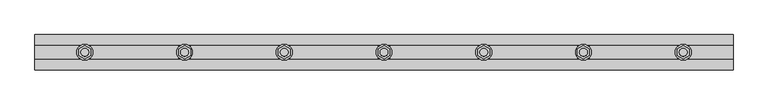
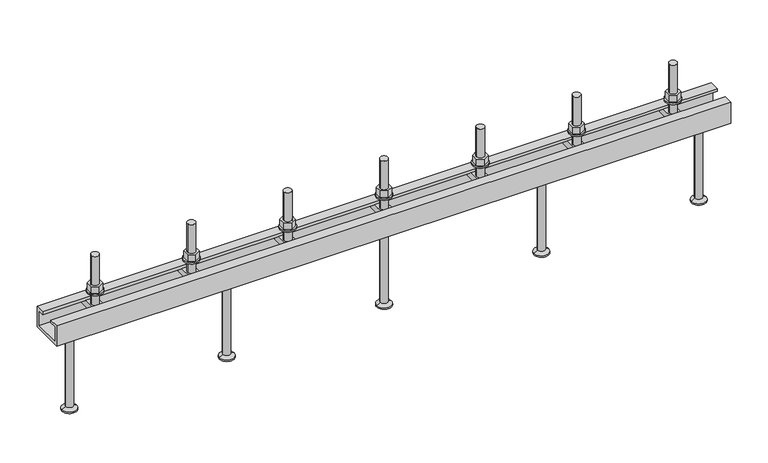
"""IFC4 building model written with IfcOpenShell, lengths in millimetres: fastener geometry, JTA-K JORDAHL® AnchorChannels : JTA-K L=1050 mm."""

from ifc_helpers import new_model, si_unit, point, frame, frame_2d, origin, place, context, project, spatial, polyline, circle_curve, trimmed, segment, composite_curve, outline, extrude, source, transform, mapped, element, save
from ifc_brep_helpers import plane_surface, cylinder_surface, revolved_surface, advanced_brep


def fastener_135f6368(model_context):
    return source(origin(), model_context, "Body", "SolidModel", [
        extrude(outline(polyline([(825.0, -10.3923048), (816.0, -5.1961524), (816.0, 5.1961524), (825.0, 10.3923048), (834.0, 5.1961524), (834.0, -5.1961524), (825.0, -10.3923048)]), holes=[composite_curve([segment(trimmed(circle_curve(frame_2d((825.0, 0.0)), 6.0), [point((819.0, 0.0))], [point((831.0, 0.0))], True, "CARTESIAN"), True, "CONTINUOUS"), segment(trimmed(circle_curve(frame_2d((825.0, 0.0)), 6.0), [point((831.0, 0.0))], [point((819.0, 0.0))], True, "CARTESIAN"), True, "CONTINUOUS")], self_intersect=False)]), frame((0.0, 0.0, 17.5), z_axis=(0.0, 0.0, 1.0), x_axis=(1.0, 0.0, 0.0)), (0.0, 0.0, 1.0), 10.8),
        extrude(outline(composite_curve([segment(trimmed(circle_curve(frame_2d((825.0, 0.0)), 12.0), [point((813.0, 0.0))], [point((837.0, 0.0))], False, "CARTESIAN"), True, "CONTINUOUS"), segment(trimmed(circle_curve(frame_2d((825.0, 0.0)), 12.0), [point((837.0, 0.0))], [point((813.0, 0.0))], False, "CARTESIAN"), True, "CONTINUOUS")], self_intersect=False), holes=[composite_curve([segment(trimmed(circle_curve(frame_2d((825.0, 0.0)), 6.5), [point((818.5, 0.0))], [point((831.5, 0.0))], True, "CARTESIAN"), True, "CONTINUOUS"), segment(trimmed(circle_curve(frame_2d((825.0, 0.0)), 6.5), [point((831.5, 0.0))], [point((818.5, 0.0))], True, "CARTESIAN"), True, "CONTINUOUS")], self_intersect=False)]), frame((0.0, 0.0, 15.0), z_axis=(0.0, 0.0, 1.0), x_axis=(1.0, 0.0, 0.0)), (0.0, 0.0, 1.0), 2.5),
        extrude(outline(polyline([(675.0, -10.3923048), (666.0, -5.1961524), (666.0, 5.1961524), (675.0, 10.3923048), (684.0, 5.1961524), (684.0, -5.1961524), (675.0, -10.3923048)]), holes=[composite_curve([segment(trimmed(circle_curve(frame_2d((675.0, 0.0)), 6.0), [point((669.0, 0.0))], [point((681.0, 0.0))], True, "CARTESIAN"), True, "CONTINUOUS"), segment(trimmed(circle_curve(frame_2d((675.0, 0.0)), 6.0), [point((681.0, 0.0))], [point((669.0, 0.0))], True, "CARTESIAN"), True, "CONTINUOUS")], self_intersect=False)]), frame((0.0, 0.0, 17.5), z_axis=(0.0, 0.0, 1.0), x_axis=(1.0, 0.0, 0.0)), (0.0, 0.0, 1.0), 10.8),
        extrude(outline(composite_curve([segment(trimmed(circle_curve(frame_2d((675.0, 0.0)), 12.0), [point((663.0, 0.0))], [point((687.0, 0.0))], False, "CARTESIAN"), True, "CONTINUOUS"), segment(trimmed(circle_curve(frame_2d((675.0, 0.0)), 12.0), [point((687.0, 0.0))], [point((663.0, 0.0))], False, "CARTESIAN"), True, "CONTINUOUS")], self_intersect=False), holes=[composite_curve([segment(trimmed(circle_curve(frame_2d((675.0, 0.0)), 6.5), [point((668.5, 0.0))], [point((681.5, 0.0))], True, "CARTESIAN"), True, "CONTINUOUS"), segment(trimmed(circle_curve(frame_2d((675.0, 0.0)), 6.5), [point((681.5, 0.0))], [point((668.5, 0.0))], True, "CARTESIAN"), True, "CONTINUOUS")], self_intersect=False)]), frame((0.0, 0.0, 15.0), z_axis=(0.0, 0.0, 1.0), x_axis=(1.0, 0.0, 0.0)), (0.0, 0.0, 1.0), 2.5),
        extrude(outline(polyline([(525.0, -10.3923048), (516.0, -5.1961524), (516.0, 5.1961524), (525.0, 10.3923048), (534.0, 5.1961524), (534.0, -5.1961524), (525.0, -10.3923048)]), holes=[composite_curve([segment(trimmed(circle_curve(frame_2d((525.0, 0.0)), 6.0), [point((519.0, 0.0))], [point((531.0, 0.0))], True, "CARTESIAN"), True, "CONTINUOUS"), segment(trimmed(circle_curve(frame_2d((525.0, 0.0)), 6.0), [point((531.0, 0.0))], [point((519.0, 0.0))], True, "CARTESIAN"), True, "CONTINUOUS")], self_intersect=False)]), frame((0.0, 0.0, 17.5), z_axis=(0.0, 0.0, 1.0), x_axis=(1.0, 0.0, 0.0)), (0.0, 0.0, 1.0), 10.8),
        extrude(outline(composite_curve([segment(trimmed(circle_curve(frame_2d((525.0, 0.0)), 12.0), [point((513.0, 0.0))], [point((537.0, 0.0))], False, "CARTESIAN"), True, "CONTINUOUS"), segment(trimmed(circle_curve(frame_2d((525.0, 0.0)), 12.0), [point((537.0, 0.0))], [point((513.0, 0.0))], False, "CARTESIAN"), True, "CONTINUOUS")], self_intersect=False), holes=[composite_curve([segment(trimmed(circle_curve(frame_2d((525.0, 0.0)), 6.5), [point((518.5, 0.0))], [point((531.5, 0.0))], True, "CARTESIAN"), True, "CONTINUOUS"), segment(trimmed(circle_curve(frame_2d((525.0, 0.0)), 6.5), [point((531.5, 0.0))], [point((518.5, 0.0))], True, "CARTESIAN"), True, "CONTINUOUS")], self_intersect=False)]), frame((0.0, 0.0, 15.0), z_axis=(0.0, 0.0, 1.0), x_axis=(1.0, 0.0, 0.0)), (0.0, 0.0, 1.0), 2.5),
        extrude(outline(polyline([(375.0, -10.3923048), (366.0, -5.1961524), (366.0, 5.1961524), (375.0, 10.3923048), (384.0, 5.1961524), (384.0, -5.1961524), (375.0, -10.3923048)]), holes=[composite_curve([segment(trimmed(circle_curve(frame_2d((375.0, 0.0)), 6.0), [point((369.0, 0.0))], [point((381.0, 0.0))], True, "CARTESIAN"), True, "CONTINUOUS"), segment(trimmed(circle_curve(frame_2d((375.0, 0.0)), 6.0), [point((381.0, 0.0))], [point((369.0, 0.0))], True, "CARTESIAN"), True, "CONTINUOUS")], self_intersect=False)]), frame((0.0, 0.0, 17.5), z_axis=(0.0, 0.0, 1.0), x_axis=(1.0, 0.0, 0.0)), (0.0, 0.0, 1.0), 10.8),
        extrude(outline(composite_curve([segment(trimmed(circle_curve(frame_2d((375.0, 0.0)), 12.0), [point((363.0, 0.0))], [point((387.0, 0.0))], False, "CARTESIAN"), True, "CONTINUOUS"), segment(trimmed(circle_curve(frame_2d((375.0, 0.0)), 12.0), [point((387.0, 0.0))], [point((363.0, 0.0))], False, "CARTESIAN"), True, "CONTINUOUS")], self_intersect=False), holes=[composite_curve([segment(trimmed(circle_curve(frame_2d((375.0, 0.0)), 6.5), [point((368.5, 0.0))], [point((381.5, 0.0))], True, "CARTESIAN"), True, "CONTINUOUS"), segment(trimmed(circle_curve(frame_2d((375.0, 0.0)), 6.5), [point((381.5, 0.0))], [point((368.5, 0.0))], True, "CARTESIAN"), True, "CONTINUOUS")], self_intersect=False)]), frame((0.0, 0.0, 15.0), z_axis=(0.0, 0.0, 1.0), x_axis=(1.0, 0.0, 0.0)), (0.0, 0.0, 1.0), 2.5),
        extrude(outline(polyline([(225.0, -10.3923048), (216.0, -5.1961524), (216.0, 5.1961524), (225.0, 10.3923048), (234.0, 5.1961524), (234.0, -5.1961524), (225.0, -10.3923048)]), holes=[composite_curve([segment(trimmed(circle_curve(frame_2d((225.0, 0.0)), 6.0), [point((219.0, 0.0))], [point((231.0, 0.0))], True, "CARTESIAN"), True, "CONTINUOUS"), segment(trimmed(circle_curve(frame_2d((225.0, 0.0)), 6.0), [point((231.0, 0.0))], [point((219.0, 0.0))], True, "CARTESIAN"), True, "CONTINUOUS")], self_intersect=False)]), frame((0.0, 0.0, 17.5), z_axis=(0.0, 0.0, 1.0), x_axis=(1.0, 0.0, 0.0)), (0.0, 0.0, 1.0), 10.8),
        extrude(outline(composite_curve([segment(trimmed(circle_curve(frame_2d((225.0, 0.0)), 12.0), [point((213.0, 0.0))], [point((237.0, 0.0))], False, "CARTESIAN"), True, "CONTINUOUS"), segment(trimmed(circle_curve(frame_2d((225.0, 0.0)), 12.0), [point((237.0, 0.0))], [point((213.0, 0.0))], False, "CARTESIAN"), True, "CONTINUOUS")], self_intersect=False), holes=[composite_curve([segment(trimmed(circle_curve(frame_2d((225.0, 0.0)), 6.5), [point((218.5, 0.0))], [point((231.5, 0.0))], True, "CARTESIAN"), True, "CONTINUOUS"), segment(trimmed(circle_curve(frame_2d((225.0, 0.0)), 6.5), [point((231.5, 0.0))], [point((218.5, 0.0))], True, "CARTESIAN"), True, "CONTINUOUS")], self_intersect=False)]), frame((0.0, 0.0, 15.0), z_axis=(0.0, 0.0, 1.0), x_axis=(1.0, 0.0, 0.0)), (0.0, 0.0, 1.0), 2.5),
        advanced_brep(
        [(833.5, -20.7, -4.5), (833.5, -20.7, -14.5), (833.5, 20.7, -14.5), (833.5, 20.7, -4.5), (816.5, -20.7, -4.5), (816.5, 20.7, -4.5), (816.5, 20.7, -14.5), (816.5, -20.7, -14.5), (831.0, 0.0, -4.5), (819.0, 0.0, -4.5), (819.0, 0.0, 75.5), (831.0, 0.0, 75.5)],
        [
            (0, 1),
            (1, 2),
            (2, 3),
            (3, 0),
            (4, 5),
            (5, 6),
            (6, 7),
            (7, 4),
            (3, 5),
            (4, 0),
            (8, 9, circle_curve(frame((825.0, 0.0, -4.5), z_axis=(0.0, 0.0, -1.0), x_axis=(1.0, 0.0, 0.0)), 6.0)),
            (9, 8, circle_curve(frame((825.0, 0.0, -4.5), z_axis=(0.0, 0.0, -1.0), x_axis=(1.0, 0.0, 0.0)), 6.0)),
            (2, 6),
            (1, 7),
            (10, 11, circle_curve(frame((825.0, 0.0, 75.5), z_axis=(0.0, 0.0, 1.0), x_axis=(1.0, 0.0, 0.0)), 6.0)),
            (11, 10, circle_curve(frame((825.0, 0.0, 75.5), z_axis=(0.0, 0.0, 1.0), x_axis=(1.0, 0.0, 0.0)), 6.0)),
            (11, 8),
            (9, 10),
        ],
        [
            plane_surface(frame((833.5, 20.7, -4.5), z_axis=(1.0, 0.0, 0.0), x_axis=(0.0, 1.0, 0.0))),
            plane_surface(frame((816.5, 20.7, -4.5), z_axis=(-1.0, 0.0, 0.0), x_axis=(0.0, -1.0, 0.0))),
            plane_surface(frame((833.5, -20.7, -4.5), z_axis=(0.0, 0.0, 1.0), x_axis=(-1.0, 0.0, 0.0))),
            plane_surface(frame((833.5, 20.7, -4.5), z_axis=(0.0, 1.0, 0.0), x_axis=(-1.0, 0.0, 0.0))),
            plane_surface(frame((833.5, 20.7, -14.5), z_axis=(0.0, 0.0, -1.0), x_axis=(-1.0, 0.0, 0.0))),
            plane_surface(frame((833.5, -20.7, -14.5), z_axis=(0.0, -1.0, 0.0), x_axis=(-1.0, 0.0, 0.0))),
            plane_surface(frame((831.0, 0.0, 75.5), z_axis=(0.0, 0.0, 1.0), x_axis=(0.0, -1.0, 0.0))),
            cylinder_surface(frame((825.0, 0.0, -4.5), z_axis=(0.0, 0.0, 1.0), x_axis=(1.0, 0.0, 0.0)), 6.0),
        ],
        [
            (0, [[1, 2, 3, 4]]),
            (1, [[5, 6, 7, 8]]),
            (2, [[9, -5, 10, -4], [11, 12]]),
            (3, [[13, -6, -9, -3]]),
            (4, [[14, -7, -13, -2]]),
            (5, [[-10, -8, -14, -1]]),
            (6, [[15, 16]]),
            (7, [[17, -12, 18, -16]]),
            (7, [[-18, -11, -17, -15]]),
        ],
    ),
        advanced_brep(
        [(683.5, -20.7, -4.5), (683.5, -20.7, -14.5), (683.5, 20.7, -14.5), (683.5, 20.7, -4.5), (666.5, -20.7, -4.5), (666.5, 20.7, -4.5), (666.5, 20.7, -14.5), (666.5, -20.7, -14.5), (681.0, 0.0, -4.5), (669.0, 0.0, -4.5), (669.0, 0.0, 75.5), (681.0, 0.0, 75.5)],
        [
            (0, 1),
            (1, 2),
            (2, 3),
            (3, 0),
            (4, 5),
            (5, 6),
            (6, 7),
            (7, 4),
            (3, 5),
            (4, 0),
            (8, 9, circle_curve(frame((675.0, 0.0, -4.5), z_axis=(0.0, 0.0, -1.0), x_axis=(1.0, 0.0, 0.0)), 6.0)),
            (9, 8, circle_curve(frame((675.0, 0.0, -4.5), z_axis=(0.0, 0.0, -1.0), x_axis=(1.0, 0.0, 0.0)), 6.0)),
            (2, 6),
            (1, 7),
            (10, 11, circle_curve(frame((675.0, 0.0, 75.5), z_axis=(0.0, 0.0, 1.0), x_axis=(1.0, 0.0, 0.0)), 6.0)),
            (11, 10, circle_curve(frame((675.0, 0.0, 75.5), z_axis=(0.0, 0.0, 1.0), x_axis=(1.0, 0.0, 0.0)), 6.0)),
            (11, 8),
            (9, 10),
        ],
        [
            plane_surface(frame((683.5, 20.7, -4.5), z_axis=(1.0, 0.0, 0.0), x_axis=(0.0, 1.0, 0.0))),
            plane_surface(frame((666.5, 20.7, -4.5), z_axis=(-1.0, 0.0, 0.0), x_axis=(0.0, -1.0, 0.0))),
            plane_surface(frame((683.5, -20.7, -4.5), z_axis=(0.0, 0.0, 1.0), x_axis=(-1.0, 0.0, 0.0))),
            plane_surface(frame((683.5, 20.7, -4.5), z_axis=(0.0, 1.0, 0.0), x_axis=(-1.0, 0.0, 0.0))),
            plane_surface(frame((683.5, 20.7, -14.5), z_axis=(0.0, 0.0, -1.0), x_axis=(-1.0, 0.0, 0.0))),
            plane_surface(frame((683.5, -20.7, -14.5), z_axis=(0.0, -1.0, 0.0), x_axis=(-1.0, 0.0, 0.0))),
            plane_surface(frame((681.0, 0.0, 75.5), z_axis=(0.0, 0.0, 1.0), x_axis=(0.0, -1.0, 0.0))),
            cylinder_surface(frame((675.0, 0.0, -4.5), z_axis=(0.0, 0.0, 1.0), x_axis=(1.0, 0.0, 0.0)), 6.0),
        ],
        [
            (0, [[1, 2, 3, 4]]),
            (1, [[5, 6, 7, 8]]),
            (2, [[9, -5, 10, -4], [11, 12]]),
            (3, [[13, -6, -9, -3]]),
            (4, [[14, -7, -13, -2]]),
            (5, [[-10, -8, -14, -1]]),
            (6, [[15, 16]]),
            (7, [[17, -12, 18, -16]]),
            (7, [[-18, -11, -17, -15]]),
        ],
    ),
        advanced_brep(
        [(533.5, -20.7, -4.5), (533.5, -20.7, -14.5), (533.5, 20.7, -14.5), (533.5, 20.7, -4.5), (516.5, -20.7, -4.5), (516.5, 20.7, -4.5), (516.5, 20.7, -14.5), (516.5, -20.7, -14.5), (531.0, 0.0, -4.5), (519.0, 0.0, -4.5), (519.0, 0.0, 75.5), (531.0, 0.0, 75.5)],
        [
            (0, 1),
            (1, 2),
            (2, 3),
            (3, 0),
            (4, 5),
            (5, 6),
            (6, 7),
            (7, 4),
            (3, 5),
            (4, 0),
            (8, 9, circle_curve(frame((525.0, 0.0, -4.5), z_axis=(0.0, 0.0, -1.0), x_axis=(1.0, 0.0, 0.0)), 6.0)),
            (9, 8, circle_curve(frame((525.0, 0.0, -4.5), z_axis=(0.0, 0.0, -1.0), x_axis=(1.0, 0.0, 0.0)), 6.0)),
            (2, 6),
            (1, 7),
            (10, 11, circle_curve(frame((525.0, 0.0, 75.5), z_axis=(0.0, 0.0, 1.0), x_axis=(1.0, 0.0, 0.0)), 6.0)),
            (11, 10, circle_curve(frame((525.0, 0.0, 75.5), z_axis=(0.0, 0.0, 1.0), x_axis=(1.0, 0.0, 0.0)), 6.0)),
            (11, 8),
            (9, 10),
        ],
        [
            plane_surface(frame((533.5, 20.7, -4.5), z_axis=(1.0, 0.0, 0.0), x_axis=(0.0, 1.0, 0.0))),
            plane_surface(frame((516.5, 20.7, -4.5), z_axis=(-1.0, 0.0, 0.0), x_axis=(0.0, -1.0, 0.0))),
            plane_surface(frame((533.5, -20.7, -4.5), z_axis=(0.0, 0.0, 1.0), x_axis=(-1.0, 0.0, 0.0))),
            plane_surface(frame((533.5, 20.7, -4.5), z_axis=(0.0, 1.0, 0.0), x_axis=(-1.0, 0.0, 0.0))),
            plane_surface(frame((533.5, 20.7, -14.5), z_axis=(0.0, 0.0, -1.0), x_axis=(-1.0, 0.0, 0.0))),
            plane_surface(frame((533.5, -20.7, -14.5), z_axis=(0.0, -1.0, 0.0), x_axis=(-1.0, 0.0, 0.0))),
            plane_surface(frame((531.0, 0.0, 75.5), z_axis=(0.0, 0.0, 1.0), x_axis=(0.0, -1.0, 0.0))),
            cylinder_surface(frame((525.0, 0.0, -4.5), z_axis=(0.0, 0.0, 1.0), x_axis=(1.0, 0.0, 0.0)), 6.0),
        ],
        [
            (0, [[1, 2, 3, 4]]),
            (1, [[5, 6, 7, 8]]),
            (2, [[9, -5, 10, -4], [11, 12]]),
            (3, [[13, -6, -9, -3]]),
            (4, [[14, -7, -13, -2]]),
            (5, [[-10, -8, -14, -1]]),
            (6, [[15, 16]]),
            (7, [[17, -12, 18, -16]]),
            (7, [[-18, -11, -17, -15]]),
        ],
    ),
        advanced_brep(
        [(383.5, -20.7, -4.5), (383.5, -20.7, -14.5), (383.5, 20.7, -14.5), (383.5, 20.7, -4.5), (366.5, -20.7, -4.5), (366.5, 20.7, -4.5), (366.5, 20.7, -14.5), (366.5, -20.7, -14.5), (381.0, 0.0, -4.5), (369.0, 0.0, -4.5), (369.0, 0.0, 75.5), (381.0, 0.0, 75.5)],
        [
            (0, 1),
            (1, 2),
            (2, 3),
            (3, 0),
            (4, 5),
            (5, 6),
            (6, 7),
            (7, 4),
            (3, 5),
            (4, 0),
            (8, 9, circle_curve(frame((375.0, 0.0, -4.5), z_axis=(0.0, 0.0, -1.0), x_axis=(1.0, 0.0, 0.0)), 6.0)),
            (9, 8, circle_curve(frame((375.0, 0.0, -4.5), z_axis=(0.0, 0.0, -1.0), x_axis=(1.0, 0.0, 0.0)), 6.0)),
            (2, 6),
            (1, 7),
            (10, 11, circle_curve(frame((375.0, 0.0, 75.5), z_axis=(0.0, 0.0, 1.0), x_axis=(1.0, 0.0, 0.0)), 6.0)),
            (11, 10, circle_curve(frame((375.0, 0.0, 75.5), z_axis=(0.0, 0.0, 1.0), x_axis=(1.0, 0.0, 0.0)), 6.0)),
            (11, 8),
            (9, 10),
        ],
        [
            plane_surface(frame((383.5, 20.7, -4.5), z_axis=(1.0, 0.0, 0.0), x_axis=(0.0, 1.0, 0.0))),
            plane_surface(frame((366.5, 20.7, -4.5), z_axis=(-1.0, 0.0, 0.0), x_axis=(0.0, -1.0, 0.0))),
            plane_surface(frame((383.5, -20.7, -4.5), z_axis=(0.0, 0.0, 1.0), x_axis=(-1.0, 0.0, 0.0))),
            plane_surface(frame((383.5, 20.7, -4.5), z_axis=(0.0, 1.0, 0.0), x_axis=(-1.0, 0.0, 0.0))),
            plane_surface(frame((383.5, 20.7, -14.5), z_axis=(0.0, 0.0, -1.0), x_axis=(-1.0, 0.0, 0.0))),
            plane_surface(frame((383.5, -20.7, -14.5), z_axis=(0.0, -1.0, 0.0), x_axis=(-1.0, 0.0, 0.0))),
            plane_surface(frame((381.0, 0.0, 75.5), z_axis=(0.0, 0.0, 1.0), x_axis=(0.0, -1.0, 0.0))),
            cylinder_surface(frame((375.0, 0.0, -4.5), z_axis=(0.0, 0.0, 1.0), x_axis=(1.0, 0.0, 0.0)), 6.0),
        ],
        [
            (0, [[1, 2, 3, 4]]),
            (1, [[5, 6, 7, 8]]),
            (2, [[9, -5, 10, -4], [11, 12]]),
            (3, [[13, -6, -9, -3]]),
            (4, [[14, -7, -13, -2]]),
            (5, [[-10, -8, -14, -1]]),
            (6, [[15, 16]]),
            (7, [[17, -12, 18, -16]]),
            (7, [[-18, -11, -17, -15]]),
        ],
    ),
        advanced_brep(
        [(233.5, -20.7, -4.5), (233.5, -20.7, -14.5), (233.5, 20.7, -14.5), (233.5, 20.7, -4.5), (216.5, -20.7, -4.5), (216.5, 20.7, -4.5), (216.5, 20.7, -14.5), (216.5, -20.7, -14.5), (231.0, 0.0, -4.5), (219.0, 0.0, -4.5), (219.0, 0.0, 75.5), (231.0, 0.0, 75.5)],
        [
            (0, 1),
            (1, 2),
            (2, 3),
            (3, 0),
            (4, 5),
            (5, 6),
            (6, 7),
            (7, 4),
            (3, 5),
            (4, 0),
            (8, 9, circle_curve(frame((225.0, 0.0, -4.5), z_axis=(0.0, 0.0, -1.0), x_axis=(1.0, 0.0, 0.0)), 6.0)),
            (9, 8, circle_curve(frame((225.0, 0.0, -4.5), z_axis=(0.0, 0.0, -1.0), x_axis=(1.0, 0.0, 0.0)), 6.0)),
            (2, 6),
            (1, 7),
            (10, 11, circle_curve(frame((225.0, 0.0, 75.5), z_axis=(0.0, 0.0, 1.0), x_axis=(1.0, 0.0, 0.0)), 6.0)),
            (11, 10, circle_curve(frame((225.0, 0.0, 75.5), z_axis=(0.0, 0.0, 1.0), x_axis=(1.0, 0.0, 0.0)), 6.0)),
            (11, 8),
            (9, 10),
        ],
        [
            plane_surface(frame((233.5, 20.7, -4.5), z_axis=(1.0, 0.0, 0.0), x_axis=(0.0, 1.0, 0.0))),
            plane_surface(frame((216.5, 20.7, -4.5), z_axis=(-1.0, 0.0, 0.0), x_axis=(0.0, -1.0, 0.0))),
            plane_surface(frame((233.5, -20.7, -4.5), z_axis=(0.0, 0.0, 1.0), x_axis=(-1.0, 0.0, 0.0))),
            plane_surface(frame((233.5, 20.7, -4.5), z_axis=(0.0, 1.0, 0.0), x_axis=(-1.0, 0.0, 0.0))),
            plane_surface(frame((233.5, 20.7, -14.5), z_axis=(0.0, 0.0, -1.0), x_axis=(-1.0, 0.0, 0.0))),
            plane_surface(frame((233.5, -20.7, -14.5), z_axis=(0.0, -1.0, 0.0), x_axis=(-1.0, 0.0, 0.0))),
            plane_surface(frame((231.0, 0.0, 75.5), z_axis=(0.0, 0.0, 1.0), x_axis=(0.0, -1.0, 0.0))),
            cylinder_surface(frame((225.0, 0.0, -4.5), z_axis=(0.0, 0.0, 1.0), x_axis=(1.0, 0.0, 0.0)), 6.0),
        ],
        [
            (0, [[1, 2, 3, 4]]),
            (1, [[5, 6, 7, 8]]),
            (2, [[9, -5, 10, -4], [11, 12]]),
            (3, [[13, -6, -9, -3]]),
            (4, [[14, -7, -13, -2]]),
            (5, [[-10, -8, -14, -1]]),
            (6, [[15, 16]]),
            (7, [[17, -12, 18, -16]]),
            (7, [[-18, -11, -17, -15]]),
        ],
    ),
        advanced_brep(
        [(770.0, 0.0, -34.0), (752.5, 0.0, -34.0), (787.5, 0.0, -34.0), (758.5, 0.0, -165.0), (770.0, 0.0, -165.0), (781.5, 0.0, -165.0), (758.5, 0.0, -163.0), (781.5, 0.0, -163.0), (764.2, 0.0, -159.7091035), (775.8, 0.0, -159.7091035), (764.2, 0.0, -37.0), (775.8, 0.0, -37.0)],
        [
            (0, 1),
            (1, 2, circle_curve(frame((770.0, 0.0, -34.0), z_axis=(0.0, 0.0, 1.0), x_axis=(1.0, 0.0, 0.0)), 17.5)),
            (2, 0),
            (2, 1, circle_curve(frame((770.0, 0.0, -34.0), z_axis=(0.0, 0.0, 1.0), x_axis=(1.0, 0.0, 0.0)), 17.5)),
            (3, 4),
            (4, 5),
            (5, 3, circle_curve(frame((770.0, 0.0, -165.0), z_axis=(0.0, 0.0, -1.0), x_axis=(1.0, 0.0, 0.0)), 11.5)),
            (3, 5, circle_curve(frame((770.0, 0.0, -165.0), z_axis=(0.0, 0.0, -1.0), x_axis=(1.0, 0.0, 0.0)), 11.5)),
            (6, 3),
            (5, 7),
            (7, 6, circle_curve(frame((770.0, 0.0, -163.0), z_axis=(0.0, 0.0, -1.0), x_axis=(1.0, 0.0, 0.0)), 11.5)),
            (6, 7, circle_curve(frame((770.0, 0.0, -163.0), z_axis=(0.0, 0.0, -1.0), x_axis=(1.0, 0.0, 0.0)), 11.5)),
            (8, 6),
            (7, 9),
            (9, 8, circle_curve(frame((770.0, 0.0, -159.7091035), z_axis=(0.0, 0.0, -1.0), x_axis=(1.0, 0.0, 0.0)), 5.8)),
            (8, 9, circle_curve(frame((770.0, 0.0, -159.7091035), z_axis=(0.0, 0.0, -1.0), x_axis=(1.0, 0.0, 0.0)), 5.8)),
            (10, 8),
            (9, 11),
            (11, 10, circle_curve(frame((770.0, 0.0, -37.0), z_axis=(0.0, 0.0, -1.0), x_axis=(1.0, 0.0, 0.0)), 5.8)),
            (10, 11, circle_curve(frame((770.0, 0.0, -37.0), z_axis=(0.0, 0.0, -1.0), x_axis=(1.0, 0.0, 0.0)), 5.8)),
            (1, 10),
            (11, 2),
        ],
        [
            plane_surface(frame((770.0, 0.0, -34.0), z_axis=(0.0, 0.0, 1.0), x_axis=(1.0, 0.0, 0.0))),
            plane_surface(frame((770.0, 0.0, -165.0), z_axis=(0.0, 0.0, -1.0), x_axis=(1.0, 0.0, 0.0))),
            cylinder_surface(frame((770.0, 0.0, 2345.3150031), z_axis=(0.0, 0.0, 1.0), x_axis=(1.0, 0.0, 0.0)), 11.5),
            revolved_surface(polyline([(781.5, 0.0, -163.0), (775.8, 0.0, -159.7091035)]), (770.0, 0.0, 2345.3150031), (0.0, 0.0, 1.0)),
            cylinder_surface(frame((770.0, 0.0, 2345.3150031), z_axis=(0.0, 0.0, 1.0), x_axis=(1.0, 0.0, 0.0)), 5.8),
            revolved_surface(polyline([(775.8, 0.0, -37.0), (787.5, 0.0, -34.0)]), (770.0, 0.0, 2345.3150031), (0.0, 0.0, 1.0)),
        ],
        [
            (0, [[1, 2, 3]]),
            (0, [[-3, 4, -1]]),
            (1, [[5, 6, 7]]),
            (1, [[-6, -5, 8]]),
            (2, [[9, -7, 10, 11]]),
            (2, [[-10, -8, -9, 12]]),
            (3, [[13, -11, 14, 15]]),
            (3, [[-14, -12, -13, 16]]),
            (4, [[17, -15, 18, 19]]),
            (4, [[-18, -16, -17, 20]]),
            (5, [[21, -19, 22, -2]]),
            (5, [[-22, -20, -21, -4]]),
        ],
    ),
        advanced_brep(
        [(525.0, 0.0, -34.0), (507.5, 0.0, -34.0), (542.5, 0.0, -34.0), (513.5, 0.0, -165.0), (525.0, 0.0, -165.0), (536.5, 0.0, -165.0), (513.5, 0.0, -163.0), (536.5, 0.0, -163.0), (519.2, 0.0, -159.7091035), (530.8, 0.0, -159.7091035), (519.2, 0.0, -37.0), (530.8, 0.0, -37.0)],
        [
            (0, 1),
            (1, 2, circle_curve(frame((525.0, 0.0, -34.0), z_axis=(0.0, 0.0, 1.0), x_axis=(1.0, 0.0, 0.0)), 17.5)),
            (2, 0),
            (2, 1, circle_curve(frame((525.0, 0.0, -34.0), z_axis=(0.0, 0.0, 1.0), x_axis=(1.0, 0.0, 0.0)), 17.5)),
            (3, 4),
            (4, 5),
            (5, 3, circle_curve(frame((525.0, 0.0, -165.0), z_axis=(0.0, 0.0, -1.0), x_axis=(1.0, 0.0, 0.0)), 11.5)),
            (3, 5, circle_curve(frame((525.0, 0.0, -165.0), z_axis=(0.0, 0.0, -1.0), x_axis=(1.0, 0.0, 0.0)), 11.5)),
            (6, 3),
            (5, 7),
            (7, 6, circle_curve(frame((525.0, 0.0, -163.0), z_axis=(0.0, 0.0, -1.0), x_axis=(1.0, 0.0, 0.0)), 11.5)),
            (6, 7, circle_curve(frame((525.0, 0.0, -163.0), z_axis=(0.0, 0.0, -1.0), x_axis=(1.0, 0.0, 0.0)), 11.5)),
            (8, 6),
            (7, 9),
            (9, 8, circle_curve(frame((525.0, 0.0, -159.7091035), z_axis=(0.0, 0.0, -1.0), x_axis=(1.0, 0.0, 0.0)), 5.8)),
            (8, 9, circle_curve(frame((525.0, 0.0, -159.7091035), z_axis=(0.0, 0.0, -1.0), x_axis=(1.0, 0.0, 0.0)), 5.8)),
            (10, 8),
            (9, 11),
            (11, 10, circle_curve(frame((525.0, 0.0, -37.0), z_axis=(0.0, 0.0, -1.0), x_axis=(1.0, 0.0, 0.0)), 5.8)),
            (10, 11, circle_curve(frame((525.0, 0.0, -37.0), z_axis=(0.0, 0.0, -1.0), x_axis=(1.0, 0.0, 0.0)), 5.8)),
            (1, 10),
            (11, 2),
        ],
        [
            plane_surface(frame((525.0, 0.0, -34.0), z_axis=(0.0, 0.0, 1.0), x_axis=(1.0, 0.0, 0.0))),
            plane_surface(frame((525.0, 0.0, -165.0), z_axis=(0.0, 0.0, -1.0), x_axis=(1.0, 0.0, 0.0))),
            cylinder_surface(frame((525.0, 0.0, 2345.3150031), z_axis=(0.0, 0.0, 1.0), x_axis=(1.0, 0.0, 0.0)), 11.5),
            revolved_surface(polyline([(536.5, 0.0, -163.0), (530.8, 0.0, -159.7091035)]), (525.0, 0.0, 2345.3150031), (0.0, 0.0, 1.0)),
            cylinder_surface(frame((525.0, 0.0, 2345.3150031), z_axis=(0.0, 0.0, 1.0), x_axis=(1.0, 0.0, 0.0)), 5.8),
            revolved_surface(polyline([(530.8, 0.0, -37.0), (542.5, 0.0, -34.0)]), (525.0, 0.0, 2345.3150031), (0.0, 0.0, 1.0)),
        ],
        [
            (0, [[1, 2, 3]]),
            (0, [[-3, 4, -1]]),
            (1, [[5, 6, 7]]),
            (1, [[-6, -5, 8]]),
            (2, [[9, -7, 10, 11]]),
            (2, [[-10, -8, -9, 12]]),
            (3, [[13, -11, 14, 15]]),
            (3, [[-14, -12, -13, 16]]),
            (4, [[17, -15, 18, 19]]),
            (4, [[-18, -16, -17, 20]]),
            (5, [[21, -19, 22, -2]]),
            (5, [[-22, -20, -21, -4]]),
        ],
    ),
        advanced_brep(
        [(280.0, 0.0, -34.0), (262.5, 0.0, -34.0), (297.5, 0.0, -34.0), (268.5, 0.0, -165.0), (280.0, 0.0, -165.0), (291.5, 0.0, -165.0), (268.5, 0.0, -163.0), (291.5, 0.0, -163.0), (274.2, 0.0, -159.7091035), (285.8, 0.0, -159.7091035), (274.2, 0.0, -37.0), (285.8, 0.0, -37.0)],
        [
            (0, 1),
            (1, 2, circle_curve(frame((280.0, 0.0, -34.0), z_axis=(0.0, 0.0, 1.0), x_axis=(1.0, 0.0, 0.0)), 17.5)),
            (2, 0),
            (2, 1, circle_curve(frame((280.0, 0.0, -34.0), z_axis=(0.0, 0.0, 1.0), x_axis=(1.0, 0.0, 0.0)), 17.5)),
            (3, 4),
            (4, 5),
            (5, 3, circle_curve(frame((280.0, 0.0, -165.0), z_axis=(0.0, 0.0, -1.0), x_axis=(1.0, 0.0, 0.0)), 11.5)),
            (3, 5, circle_curve(frame((280.0, 0.0, -165.0), z_axis=(0.0, 0.0, -1.0), x_axis=(1.0, 0.0, 0.0)), 11.5)),
            (6, 3),
            (5, 7),
            (7, 6, circle_curve(frame((280.0, 0.0, -163.0), z_axis=(0.0, 0.0, -1.0), x_axis=(1.0, 0.0, 0.0)), 11.5)),
            (6, 7, circle_curve(frame((280.0, 0.0, -163.0), z_axis=(0.0, 0.0, -1.0), x_axis=(1.0, 0.0, 0.0)), 11.5)),
            (8, 6),
            (7, 9),
            (9, 8, circle_curve(frame((280.0, 0.0, -159.7091035), z_axis=(0.0, 0.0, -1.0), x_axis=(1.0, 0.0, 0.0)), 5.8)),
            (8, 9, circle_curve(frame((280.0, 0.0, -159.7091035), z_axis=(0.0, 0.0, -1.0), x_axis=(1.0, 0.0, 0.0)), 5.8)),
            (10, 8),
            (9, 11),
            (11, 10, circle_curve(frame((280.0, 0.0, -37.0), z_axis=(0.0, 0.0, -1.0), x_axis=(1.0, 0.0, 0.0)), 5.8)),
            (10, 11, circle_curve(frame((280.0, 0.0, -37.0), z_axis=(0.0, 0.0, -1.0), x_axis=(1.0, 0.0, 0.0)), 5.8)),
            (1, 10),
            (11, 2),
        ],
        [
            plane_surface(frame((280.0, 0.0, -34.0), z_axis=(0.0, 0.0, 1.0), x_axis=(1.0, 0.0, 0.0))),
            plane_surface(frame((280.0, 0.0, -165.0), z_axis=(0.0, 0.0, -1.0), x_axis=(1.0, 0.0, 0.0))),
            cylinder_surface(frame((280.0, 0.0, 2345.3150031), z_axis=(0.0, 0.0, 1.0), x_axis=(1.0, 0.0, 0.0)), 11.5),
            revolved_surface(polyline([(291.5, 0.0, -163.0), (285.8, 0.0, -159.7091035)]), (280.0, 0.0, 2345.3150031), (0.0, 0.0, 1.0)),
            cylinder_surface(frame((280.0, 0.0, 2345.3150031), z_axis=(0.0, 0.0, 1.0), x_axis=(1.0, 0.0, 0.0)), 5.8),
            revolved_surface(polyline([(285.8, 0.0, -37.0), (297.5, 0.0, -34.0)]), (280.0, 0.0, 2345.3150031), (0.0, 0.0, 1.0)),
        ],
        [
            (0, [[1, 2, 3]]),
            (0, [[-3, 4, -1]]),
            (1, [[5, 6, 7]]),
            (1, [[-6, -5, 8]]),
            (2, [[9, -7, 10, 11]]),
            (2, [[-10, -8, -9, 12]]),
            (3, [[13, -11, 14, 15]]),
            (3, [[-14, -12, -13, 16]]),
            (4, [[17, -15, 18, 19]]),
            (4, [[-18, -16, -17, 20]]),
            (5, [[21, -19, 22, -2]]),
            (5, [[-22, -20, -21, -4]]),
        ],
    ),
        extrude(outline(polyline([(975.0, -10.3923048), (966.0, -5.1961524), (966.0, 5.1961524), (975.0, 10.3923048), (984.0, 5.1961524), (984.0, -5.1961524), (975.0, -10.3923048)]), holes=[composite_curve([segment(trimmed(circle_curve(frame_2d((975.0, 0.0)), 6.0), [point((969.0, 0.0))], [point((981.0, 0.0))], True, "CARTESIAN"), True, "CONTINUOUS"), segment(trimmed(circle_curve(frame_2d((975.0, 0.0)), 6.0), [point((981.0, 0.0))], [point((969.0, 0.0))], True, "CARTESIAN"), True, "CONTINUOUS")], self_intersect=False)]), frame((0.0, 0.0, 17.5), z_axis=(0.0, 0.0, 1.0), x_axis=(1.0, 0.0, 0.0)), (0.0, 0.0, 1.0), 10.8),
        extrude(outline(composite_curve([segment(trimmed(circle_curve(frame_2d((975.0, 0.0)), 12.0), [point((963.0, 0.0))], [point((987.0, 0.0))], False, "CARTESIAN"), True, "CONTINUOUS"), segment(trimmed(circle_curve(frame_2d((975.0, 0.0)), 12.0), [point((987.0, 0.0))], [point((963.0, 0.0))], False, "CARTESIAN"), True, "CONTINUOUS")], self_intersect=False), holes=[composite_curve([segment(trimmed(circle_curve(frame_2d((975.0, 0.0)), 6.5), [point((968.5, 0.0))], [point((981.5, 0.0))], True, "CARTESIAN"), True, "CONTINUOUS"), segment(trimmed(circle_curve(frame_2d((975.0, 0.0)), 6.5), [point((981.5, 0.0))], [point((968.5, 0.0))], True, "CARTESIAN"), True, "CONTINUOUS")], self_intersect=False)]), frame((0.0, 0.0, 15.0), z_axis=(0.0, 0.0, 1.0), x_axis=(1.0, 0.0, 0.0)), (0.0, 0.0, 1.0), 2.5),
        extrude(outline(polyline([(75.0, -10.3923048), (66.0, -5.1961524), (66.0, 5.1961524), (75.0, 10.3923048), (84.0, 5.1961524), (84.0, -5.1961524), (75.0, -10.3923048)]), holes=[composite_curve([segment(trimmed(circle_curve(frame_2d((75.0, 0.0)), 6.0), [point((69.0, 0.0))], [point((81.0, 0.0))], True, "CARTESIAN"), True, "CONTINUOUS"), segment(trimmed(circle_curve(frame_2d((75.0, 0.0)), 6.0), [point((81.0, 0.0))], [point((69.0, 0.0))], True, "CARTESIAN"), True, "CONTINUOUS")], self_intersect=False)]), frame((0.0, 0.0, 17.5), z_axis=(0.0, 0.0, 1.0), x_axis=(1.0, 0.0, 0.0)), (0.0, 0.0, 1.0), 10.8),
        extrude(outline(composite_curve([segment(trimmed(circle_curve(frame_2d((75.0, 0.0)), 12.0), [point((63.0, 0.0))], [point((87.0, 0.0))], False, "CARTESIAN"), True, "CONTINUOUS"), segment(trimmed(circle_curve(frame_2d((75.0, 0.0)), 12.0), [point((87.0, 0.0))], [point((63.0, 0.0))], False, "CARTESIAN"), True, "CONTINUOUS")], self_intersect=False), holes=[composite_curve([segment(trimmed(circle_curve(frame_2d((75.0, 0.0)), 6.5), [point((68.5, 0.0))], [point((81.5, 0.0))], True, "CARTESIAN"), True, "CONTINUOUS"), segment(trimmed(circle_curve(frame_2d((75.0, 0.0)), 6.5), [point((81.5, 0.0))], [point((68.5, 0.0))], True, "CARTESIAN"), True, "CONTINUOUS")], self_intersect=False)]), frame((0.0, 0.0, 15.0), z_axis=(0.0, 0.0, 1.0), x_axis=(1.0, 0.0, 0.0)), (0.0, 0.0, 1.0), 2.5),
        advanced_brep(
        [(983.5, -20.7, -4.5), (983.5, -20.7, -14.5), (983.5, 20.7, -14.5), (983.5, 20.7, -4.5), (966.5, -20.7, -4.5), (966.5, 20.7, -4.5), (966.5, 20.7, -14.5), (966.5, -20.7, -14.5), (981.0, 0.0, -4.5), (969.0, 0.0, -4.5), (969.0, 0.0, 75.5), (981.0, 0.0, 75.5)],
        [
            (0, 1),
            (1, 2),
            (2, 3),
            (3, 0),
            (4, 5),
            (5, 6),
            (6, 7),
            (7, 4),
            (3, 5),
            (4, 0),
            (8, 9, circle_curve(frame((975.0, 0.0, -4.5), z_axis=(0.0, 0.0, -1.0), x_axis=(1.0, 0.0, 0.0)), 6.0)),
            (9, 8, circle_curve(frame((975.0, 0.0, -4.5), z_axis=(0.0, 0.0, -1.0), x_axis=(1.0, 0.0, 0.0)), 6.0)),
            (2, 6),
            (1, 7),
            (10, 11, circle_curve(frame((975.0, 0.0, 75.5), z_axis=(0.0, 0.0, 1.0), x_axis=(1.0, 0.0, 0.0)), 6.0)),
            (11, 10, circle_curve(frame((975.0, 0.0, 75.5), z_axis=(0.0, 0.0, 1.0), x_axis=(1.0, 0.0, 0.0)), 6.0)),
            (11, 8),
            (9, 10),
        ],
        [
            plane_surface(frame((983.5, 20.7, -4.5), z_axis=(1.0, 0.0, 0.0), x_axis=(0.0, 1.0, 0.0))),
            plane_surface(frame((966.5, 20.7, -4.5), z_axis=(-1.0, 0.0, 0.0), x_axis=(0.0, -1.0, 0.0))),
            plane_surface(frame((983.5, -20.7, -4.5), z_axis=(0.0, 0.0, 1.0), x_axis=(-1.0, 0.0, 0.0))),
            plane_surface(frame((983.5, 20.7, -4.5), z_axis=(0.0, 1.0, 0.0), x_axis=(-1.0, 0.0, 0.0))),
            plane_surface(frame((983.5, 20.7, -14.5), z_axis=(0.0, 0.0, -1.0), x_axis=(-1.0, 0.0, 0.0))),
            plane_surface(frame((983.5, -20.7, -14.5), z_axis=(0.0, -1.0, 0.0), x_axis=(-1.0, 0.0, 0.0))),
            plane_surface(frame((981.0, 0.0, 75.5), z_axis=(0.0, 0.0, 1.0), x_axis=(0.0, -1.0, 0.0))),
            cylinder_surface(frame((975.0, 0.0, -4.5), z_axis=(0.0, 0.0, 1.0), x_axis=(1.0, 0.0, 0.0)), 6.0),
        ],
        [
            (0, [[1, 2, 3, 4]]),
            (1, [[5, 6, 7, 8]]),
            (2, [[9, -5, 10, -4], [11, 12]]),
            (3, [[13, -6, -9, -3]]),
            (4, [[14, -7, -13, -2]]),
            (5, [[-10, -8, -14, -1]]),
            (6, [[15, 16]]),
            (7, [[17, -12, 18, -16]]),
            (7, [[-18, -11, -17, -15]]),
        ],
    ),
        advanced_brep(
        [(83.5, -20.7, -4.5), (83.5, -20.7, -14.5), (83.5, 20.7, -14.5), (83.5, 20.7, -4.5), (66.5, -20.7, -4.5), (66.5, 20.7, -4.5), (66.5, 20.7, -14.5), (66.5, -20.7, -14.5), (81.0, 0.0, -4.5), (69.0, 0.0, -4.5), (69.0, 0.0, 75.5), (81.0, 0.0, 75.5)],
        [
            (0, 1),
            (1, 2),
            (2, 3),
            (3, 0),
            (4, 5),
            (5, 6),
            (6, 7),
            (7, 4),
            (3, 5),
            (4, 0),
            (8, 9, circle_curve(frame((75.0, 0.0, -4.5), z_axis=(0.0, 0.0, -1.0), x_axis=(1.0, 0.0, 0.0)), 6.0)),
            (9, 8, circle_curve(frame((75.0, 0.0, -4.5), z_axis=(0.0, 0.0, -1.0), x_axis=(1.0, 0.0, 0.0)), 6.0)),
            (2, 6),
            (1, 7),
            (10, 11, circle_curve(frame((75.0, 0.0, 75.5), z_axis=(0.0, 0.0, 1.0), x_axis=(1.0, 0.0, 0.0)), 6.0)),
            (11, 10, circle_curve(frame((75.0, 0.0, 75.5), z_axis=(0.0, 0.0, 1.0), x_axis=(1.0, 0.0, 0.0)), 6.0)),
            (11, 8),
            (9, 10),
        ],
        [
            plane_surface(frame((83.5, 20.7, -4.5), z_axis=(1.0, 0.0, 0.0), x_axis=(0.0, 1.0, 0.0))),
            plane_surface(frame((66.5, 20.7, -4.5), z_axis=(-1.0, 0.0, 0.0), x_axis=(0.0, -1.0, 0.0))),
            plane_surface(frame((83.5, -20.7, -4.5), z_axis=(0.0, 0.0, 1.0), x_axis=(-1.0, 0.0, 0.0))),
            plane_surface(frame((83.5, 20.7, -4.5), z_axis=(0.0, 1.0, 0.0), x_axis=(-1.0, 0.0, 0.0))),
            plane_surface(frame((83.5, 20.7, -14.5), z_axis=(0.0, 0.0, -1.0), x_axis=(-1.0, 0.0, 0.0))),
            plane_surface(frame((83.5, -20.7, -14.5), z_axis=(0.0, -1.0, 0.0), x_axis=(-1.0, 0.0, 0.0))),
            plane_surface(frame((81.0, 0.0, 75.5), z_axis=(0.0, 0.0, 1.0), x_axis=(0.0, -1.0, 0.0))),
            cylinder_surface(frame((75.0, 0.0, -4.5), z_axis=(0.0, 0.0, 1.0), x_axis=(1.0, 0.0, 0.0)), 6.0),
        ],
        [
            (0, [[1, 2, 3, 4]]),
            (1, [[5, 6, 7, 8]]),
            (2, [[9, -5, 10, -4], [11, 12]]),
            (3, [[13, -6, -9, -3]]),
            (4, [[14, -7, -13, -2]]),
            (5, [[-10, -8, -14, -1]]),
            (6, [[15, 16]]),
            (7, [[17, -12, 18, -16]]),
            (7, [[-18, -11, -17, -15]]),
        ],
    ),
        advanced_brep(
        [(1015.0, 0.0, -34.0), (997.5, 0.0, -34.0), (1032.5, 0.0, -34.0), (1003.5, 0.0, -165.0), (1015.0, 0.0, -165.0), (1026.5, 0.0, -165.0), (1003.5, 0.0, -163.0), (1026.5, 0.0, -163.0), (1009.2, 0.0, -159.7091035), (1020.8, 0.0, -159.7091035), (1009.2, 0.0, -37.0), (1020.8, 0.0, -37.0)],
        [
            (0, 1),
            (1, 2, circle_curve(frame((1015.0, 0.0, -34.0), z_axis=(0.0, 0.0, 1.0), x_axis=(1.0, 0.0, 0.0)), 17.5)),
            (2, 0),
            (2, 1, circle_curve(frame((1015.0, 0.0, -34.0), z_axis=(0.0, 0.0, 1.0), x_axis=(1.0, 0.0, 0.0)), 17.5)),
            (3, 4),
            (4, 5),
            (5, 3, circle_curve(frame((1015.0, 0.0, -165.0), z_axis=(0.0, 0.0, -1.0), x_axis=(1.0, 0.0, 0.0)), 11.5)),
            (3, 5, circle_curve(frame((1015.0, 0.0, -165.0), z_axis=(0.0, 0.0, -1.0), x_axis=(1.0, 0.0, 0.0)), 11.5)),
            (6, 3),
            (5, 7),
            (7, 6, circle_curve(frame((1015.0, 0.0, -163.0), z_axis=(0.0, 0.0, -1.0), x_axis=(1.0, 0.0, 0.0)), 11.5)),
            (6, 7, circle_curve(frame((1015.0, 0.0, -163.0), z_axis=(0.0, 0.0, -1.0), x_axis=(1.0, 0.0, 0.0)), 11.5)),
            (8, 6),
            (7, 9),
            (9, 8, circle_curve(frame((1015.0, 0.0, -159.7091035), z_axis=(0.0, 0.0, -1.0), x_axis=(1.0, 0.0, 0.0)), 5.8)),
            (8, 9, circle_curve(frame((1015.0, 0.0, -159.7091035), z_axis=(0.0, 0.0, -1.0), x_axis=(1.0, 0.0, 0.0)), 5.8)),
            (10, 8),
            (9, 11),
            (11, 10, circle_curve(frame((1015.0, 0.0, -37.0), z_axis=(0.0, 0.0, -1.0), x_axis=(1.0, 0.0, 0.0)), 5.8)),
            (10, 11, circle_curve(frame((1015.0, 0.0, -37.0), z_axis=(0.0, 0.0, -1.0), x_axis=(1.0, 0.0, 0.0)), 5.8)),
            (1, 10),
            (11, 2),
        ],
        [
            plane_surface(frame((1015.0, 0.0, -34.0), z_axis=(0.0, 0.0, 1.0), x_axis=(1.0, 0.0, 0.0))),
            plane_surface(frame((1015.0, 0.0, -165.0), z_axis=(0.0, 0.0, -1.0), x_axis=(1.0, 0.0, 0.0))),
            cylinder_surface(frame((1015.0, 0.0, 2345.3150031), z_axis=(0.0, 0.0, 1.0), x_axis=(1.0, 0.0, 0.0)), 11.5),
            revolved_surface(polyline([(1026.5, 0.0, -163.0), (1020.8, 0.0, -159.7091035)]), (1015.0, 0.0, 2345.3150031), (0.0, 0.0, 1.0)),
            cylinder_surface(frame((1015.0, 0.0, 2345.3150031), z_axis=(0.0, 0.0, 1.0), x_axis=(1.0, 0.0, 0.0)), 5.8),
            revolved_surface(polyline([(1020.8, 0.0, -37.0), (1032.5, 0.0, -34.0)]), (1015.0, 0.0, 2345.3150031), (0.0, 0.0, 1.0)),
        ],
        [
            (0, [[1, 2, 3]]),
            (0, [[-3, 4, -1]]),
            (1, [[5, 6, 7]]),
            (1, [[-6, -5, 8]]),
            (2, [[9, -7, 10, 11]]),
            (2, [[-10, -8, -9, 12]]),
            (3, [[13, -11, 14, 15]]),
            (3, [[-14, -12, -13, 16]]),
            (4, [[17, -15, 18, 19]]),
            (4, [[-18, -16, -17, 20]]),
            (5, [[21, -19, 22, -2]]),
            (5, [[-22, -20, -21, -4]]),
        ],
    ),
        advanced_brep(
        [(35.0, 0.0, -34.0), (17.5, 0.0, -34.0), (52.5, 0.0, -34.0), (23.5, 0.0, -165.0), (35.0, 0.0, -165.0), (46.5, 0.0, -165.0), (23.5, 0.0, -163.0), (46.5, 0.0, -163.0), (29.2, 0.0, -159.7091035), (40.8, 0.0, -159.7091035), (29.2, 0.0, -37.0), (40.8, 0.0, -37.0)],
        [
            (0, 1),
            (1, 2, circle_curve(frame((35.0, 0.0, -34.0), z_axis=(0.0, 0.0, 1.0), x_axis=(1.0, 0.0, 0.0)), 17.5)),
            (2, 0),
            (2, 1, circle_curve(frame((35.0, 0.0, -34.0), z_axis=(0.0, 0.0, 1.0), x_axis=(1.0, 0.0, 0.0)), 17.5)),
            (3, 4),
            (4, 5),
            (5, 3, circle_curve(frame((35.0, 0.0, -165.0), z_axis=(0.0, 0.0, -1.0), x_axis=(1.0, 0.0, 0.0)), 11.5)),
            (3, 5, circle_curve(frame((35.0, 0.0, -165.0), z_axis=(0.0, 0.0, -1.0), x_axis=(1.0, 0.0, 0.0)), 11.5)),
            (6, 3),
            (5, 7),
            (7, 6, circle_curve(frame((35.0, 0.0, -163.0), z_axis=(0.0, 0.0, -1.0), x_axis=(1.0, 0.0, 0.0)), 11.5)),
            (6, 7, circle_curve(frame((35.0, 0.0, -163.0), z_axis=(0.0, 0.0, -1.0), x_axis=(1.0, 0.0, 0.0)), 11.5)),
            (8, 6),
            (7, 9),
            (9, 8, circle_curve(frame((35.0, 0.0, -159.7091035), z_axis=(0.0, 0.0, -1.0), x_axis=(1.0, 0.0, 0.0)), 5.8)),
            (8, 9, circle_curve(frame((35.0, 0.0, -159.7091035), z_axis=(0.0, 0.0, -1.0), x_axis=(1.0, 0.0, 0.0)), 5.8)),
            (10, 8),
            (9, 11),
            (11, 10, circle_curve(frame((35.0, 0.0, -37.0), z_axis=(0.0, 0.0, -1.0), x_axis=(1.0, 0.0, 0.0)), 5.8)),
            (10, 11, circle_curve(frame((35.0, 0.0, -37.0), z_axis=(0.0, 0.0, -1.0), x_axis=(1.0, 0.0, 0.0)), 5.8)),
            (1, 10),
            (11, 2),
        ],
        [
            plane_surface(frame((35.0, 0.0, -34.0), z_axis=(0.0, 0.0, 1.0), x_axis=(1.0, 0.0, 0.0))),
            plane_surface(frame((35.0, 0.0, -165.0), z_axis=(0.0, 0.0, -1.0), x_axis=(1.0, 0.0, 0.0))),
            cylinder_surface(frame((35.0, 0.0, 2345.3150031), z_axis=(0.0, 0.0, 1.0), x_axis=(1.0, 0.0, 0.0)), 11.5),
            revolved_surface(polyline([(46.5, 0.0, -163.0), (40.8, 0.0, -159.7091035)]), (35.0, 0.0, 2345.3150031), (0.0, 0.0, 1.0)),
            cylinder_surface(frame((35.0, 0.0, 2345.3150031), z_axis=(0.0, 0.0, 1.0), x_axis=(1.0, 0.0, 0.0)), 5.8),
            revolved_surface(polyline([(40.8, 0.0, -37.0), (52.5, 0.0, -34.0)]), (35.0, 0.0, 2345.3150031), (0.0, 0.0, 1.0)),
        ],
        [
            (0, [[1, 2, 3]]),
            (0, [[-3, 4, -1]]),
            (1, [[5, 6, 7]]),
            (1, [[-6, -5, 8]]),
            (2, [[9, -7, 10, 11]]),
            (2, [[-10, -8, -9, 12]]),
            (3, [[13, -11, 14, 15]]),
            (3, [[-14, -12, -13, 16]]),
            (4, [[17, -15, 18, 19]]),
            (4, [[-18, -16, -17, 20]]),
            (5, [[21, -19, 22, -2]]),
            (5, [[-22, -20, -21, -4]]),
        ],
    ),
        extrude(outline(polyline([(-26.5, 0.0), (-11.0, 0.0), (-11.0, -4.5), (-22.0, -4.5), (-22.0, -29.5), (22.0, -29.5), (22.0, -4.5), (11.0, -4.5), (11.0, 0.0), (26.5, 0.0), (26.5, -34.0), (-26.5, -34.0), (-26.5, 0.0)])), frame((0.0, 0.0, 0.0), z_axis=(1.0, 0.0, 0.0), x_axis=(0.0, 1.0, 0.0)), (0.0, 0.0, 1.0), 1050.0),
    ])


if __name__ == "__main__":
    model = new_model("IFC4")
    model_context = context("Model", 3, world=origin())
    ifc_project = project(units=[si_unit("LENGTHUNIT", "METRE", prefix="MILLI")], contexts=[model_context])
    site = spatial("IfcSite", under=ifc_project)
    building = spatial("IfcBuilding", under=site)
    placement = place(None, origin())
    fastener_shape = fastener_135f6368(model_context)
    element("IfcFastener", 1, ObjectType="JTA-K JORDAHL® AnchorChannels : JTA-K L=1050 mm", at=placement, inside=building, context=model_context, shape_type="MappedRepresentation", body=[
        mapped(fastener_shape, transform((0.0, 0.0, 0.0), x_axis=(1.0, 0.0, 0.0), y_axis=(0.0, 1.0, 0.0), z_axis=(0.0, 0.0, 1.0))),
    ])
    save(model, "model.ifc")
